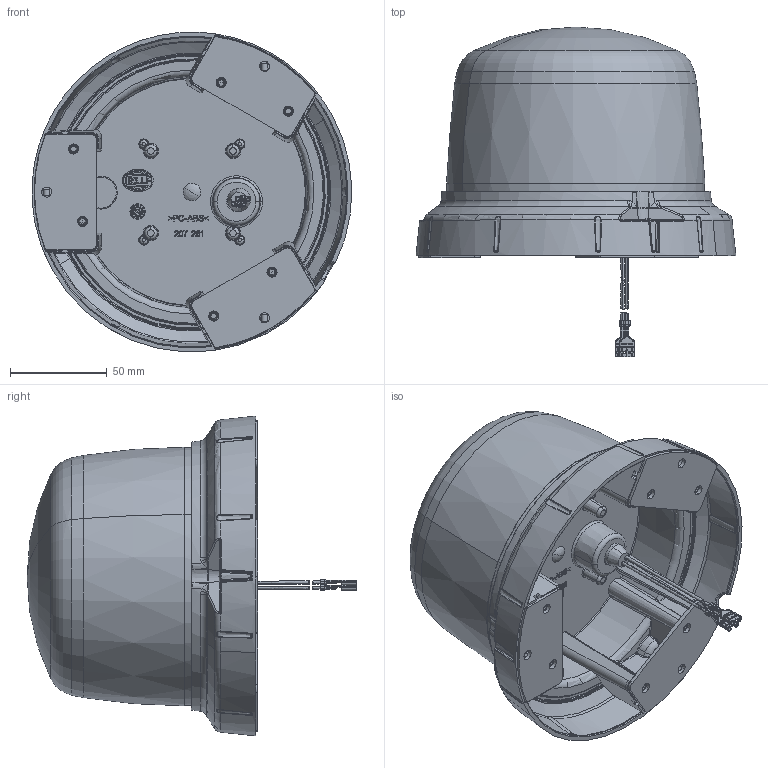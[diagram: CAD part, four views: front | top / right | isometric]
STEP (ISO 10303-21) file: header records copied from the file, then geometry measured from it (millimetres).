
FILE_DESCRIPTION(('CATIA V5 STEP Exchange','CAx-IF Rec.Pracs.--- Model Styling and Organization---1.5--- 2016-08-15','CAx-IF Rec.Pracs.---Supplemental Geometry---1.0---2011-11-01','CAx-IF Rec.Pracs.--- Composite Materials ---1.1---2010-07-15'),'2;1');
FILE_NAME('E:\tmp\ddx\2011221\HELLA_3D_data_Rota_LED_Compact_pipe_socket_2XD-013-979-01.stp','2022-01-18T07:27:01+00:00',('none'),('none'),'CATIA Version 5-6 Release 2020 SP3 HF9','CATIA V5 STEP AP214 Edition 3 v2','none');
FILE_SCHEMA(('AUTOMOTIVE_DESIGN { 1 0 10303 214 3 1 1 1 }'));
Products named in the file (1): 10001952300_D10_001
Bounding box: 165.05 x 170.29 x 165.09 mm (x, y, z)
Volume: 921210.1 mm3; surface area: 146427.7 mm2
Topology: 2 solids, 2 shells, 2992 faces, 8303 edges, 5271 vertices
Faces by surface type: plane 936, bspline 555, cylinder 483, extrusion 422, torus 289, cone 212, sphere 85, revolution 10
Entity records: 131698 total; most frequent: CARTESIAN_POINT 68497, ORIENTED_EDGE 16410, EDGE_CURVE 8205, DIRECTION 7180, VERTEX_POINT 5271, B_SPLINE_CURVE_WITH_KNOTS 4950, EDGE_LOOP 3220, AXIS2_PLACEMENT_3D 3041
